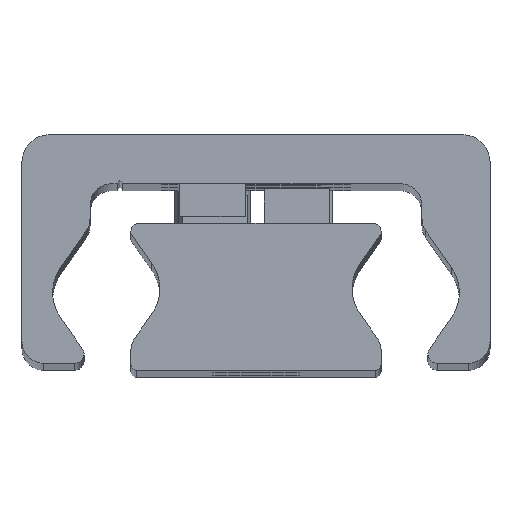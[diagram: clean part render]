
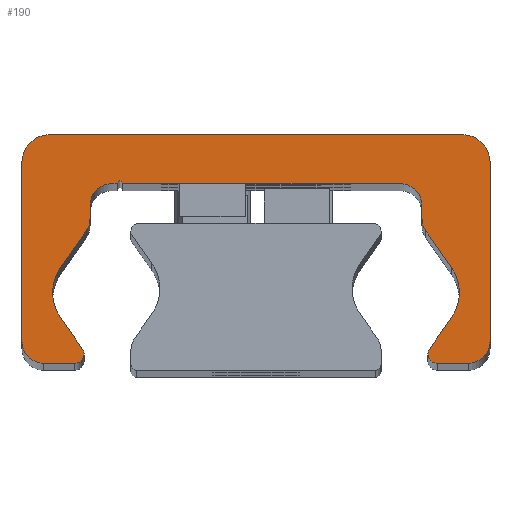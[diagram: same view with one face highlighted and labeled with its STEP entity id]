
A CAD part, top view. The second image highlights one B-rep face of the part: STEP entity #190.
In plain terms, the highlighted planar face has unit normal (0, 0, 1).
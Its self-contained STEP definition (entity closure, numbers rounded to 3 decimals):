
#190=ADVANCED_FACE('',(#468),#469,.T.);
#468=FACE_OUTER_BOUND('',#747,.T.);
#469=PLANE('',#748);
#747=EDGE_LOOP('',(#1714,#1715,#1716,#1717,#1718,#1719,#1720,#1721,#1722,#1723,#1724,#1725,#1726,#1727,#1728,#1729,#1730,#1731,#1732,#1733,#1734,#1735,#1736,#1737,#1738,#1739,#1740,#1741,#1742,#1743));
#748=AXIS2_PLACEMENT_3D('',#1744,#1745,#1746);
#1714=ORIENTED_EDGE('',*,*,#1949,.F.);
#1715=ORIENTED_EDGE('',*,*,#2102,.F.);
#1716=ORIENTED_EDGE('',*,*,#1935,.F.);
#1717=ORIENTED_EDGE('',*,*,#2101,.F.);
#1718=ORIENTED_EDGE('',*,*,#2097,.F.);
#1719=ORIENTED_EDGE('',*,*,#2094,.F.);
#1720=ORIENTED_EDGE('',*,*,#2091,.F.);
#1721=ORIENTED_EDGE('',*,*,#2088,.F.);
#1722=ORIENTED_EDGE('',*,*,#2085,.F.);
#1723=ORIENTED_EDGE('',*,*,#2082,.F.);
#1724=ORIENTED_EDGE('',*,*,#2079,.F.);
#1725=ORIENTED_EDGE('',*,*,#2076,.F.);
#1726=ORIENTED_EDGE('',*,*,#2073,.F.);
#1727=ORIENTED_EDGE('',*,*,#2070,.F.);
#1728=ORIENTED_EDGE('',*,*,#1941,.F.);
#1729=ORIENTED_EDGE('',*,*,#2068,.F.);
#1730=ORIENTED_EDGE('',*,*,#1943,.F.);
#1731=ORIENTED_EDGE('',*,*,#2067,.F.);
#1732=ORIENTED_EDGE('',*,*,#2063,.F.);
#1733=ORIENTED_EDGE('',*,*,#2060,.F.);
#1734=ORIENTED_EDGE('',*,*,#2057,.F.);
#1735=ORIENTED_EDGE('',*,*,#2054,.F.);
#1736=ORIENTED_EDGE('',*,*,#2051,.F.);
#1737=ORIENTED_EDGE('',*,*,#2048,.F.);
#1738=ORIENTED_EDGE('',*,*,#2045,.F.);
#1739=ORIENTED_EDGE('',*,*,#2042,.F.);
#1740=ORIENTED_EDGE('',*,*,#2039,.F.);
#1741=ORIENTED_EDGE('',*,*,#2036,.F.);
#1742=ORIENTED_EDGE('',*,*,#2033,.F.);
#1743=ORIENTED_EDGE('',*,*,#2030,.F.);
#1744=CARTESIAN_POINT('',(-0.023,14.187,162.0));
#1745=DIRECTION('',(0.0,0.0,1.0));
#1746=DIRECTION('',(1.0,0.0,0.0));
#1935=EDGE_CURVE('',#2354,#2357,#2358,.T.);
#1941=EDGE_CURVE('',#2367,#2363,#2369,.T.);
#1943=EDGE_CURVE('',#2370,#2373,#2374,.T.);
#1949=EDGE_CURVE('',#2383,#2379,#2385,.T.);
#2030=EDGE_CURVE('',#2379,#2516,#2517,.T.);
#2033=EDGE_CURVE('',#2516,#2521,#2522,.T.);
#2036=EDGE_CURVE('',#2521,#2526,#2527,.T.);
#2039=EDGE_CURVE('',#2526,#2531,#2532,.T.);
#2042=EDGE_CURVE('',#2531,#2536,#2537,.T.);
#2045=EDGE_CURVE('',#2536,#2541,#2542,.T.);
#2048=EDGE_CURVE('',#2541,#2546,#2547,.T.);
#2051=EDGE_CURVE('',#2546,#2551,#2552,.T.);
#2054=EDGE_CURVE('',#2551,#2556,#2557,.T.);
#2057=EDGE_CURVE('',#2556,#2561,#2562,.T.);
#2060=EDGE_CURVE('',#2561,#2566,#2567,.T.);
#2063=EDGE_CURVE('',#2566,#2571,#2572,.T.);
#2067=EDGE_CURVE('',#2571,#2370,#2577,.T.);
#2068=EDGE_CURVE('',#2373,#2367,#2578,.T.);
#2070=EDGE_CURVE('',#2363,#2580,#2581,.T.);
#2073=EDGE_CURVE('',#2580,#2585,#2586,.T.);
#2076=EDGE_CURVE('',#2585,#2590,#2591,.T.);
#2079=EDGE_CURVE('',#2590,#2595,#2596,.T.);
#2082=EDGE_CURVE('',#2595,#2600,#2601,.T.);
#2085=EDGE_CURVE('',#2600,#2605,#2606,.T.);
#2088=EDGE_CURVE('',#2605,#2610,#2611,.T.);
#2091=EDGE_CURVE('',#2610,#2615,#2616,.T.);
#2094=EDGE_CURVE('',#2615,#2620,#2621,.T.);
#2097=EDGE_CURVE('',#2620,#2625,#2626,.T.);
#2101=EDGE_CURVE('',#2625,#2354,#2631,.T.);
#2102=EDGE_CURVE('',#2357,#2383,#2632,.T.);
#2354=VERTEX_POINT('',#2974);
#2357=VERTEX_POINT('',#2978);
#2358=CIRCLE('',#2979,0.85);
#2363=VERTEX_POINT('',#2985);
#2367=VERTEX_POINT('',#2990);
#2369=CIRCLE('',#2993,0.85);
#2370=VERTEX_POINT('',#2994);
#2373=VERTEX_POINT('',#2998);
#2374=CIRCLE('',#2999,4.);
#2379=VERTEX_POINT('',#3005);
#2383=VERTEX_POINT('',#3010);
#2385=CIRCLE('',#3013,4.);
#2516=VERTEX_POINT('',#3190);
#2517=CIRCLE('',#3191,4.);
#2521=VERTEX_POINT('',#3196);
#2522=LINE('',#3197,#3198);
#2526=VERTEX_POINT('',#3204);
#2527=CIRCLE('',#3205,2.);
#2531=VERTEX_POINT('',#3210);
#2532=LINE('',#3211,#3212);
#2536=VERTEX_POINT('',#3218);
#2537=CIRCLE('',#3219,2.0);
#2541=VERTEX_POINT('',#3224);
#2542=LINE('',#3225,#3226);
#2546=VERTEX_POINT('',#3232);
#2547=CIRCLE('',#3233,0.25);
#2551=VERTEX_POINT('',#3238);
#2552=LINE('',#3239,#3240);
#2556=VERTEX_POINT('',#3246);
#2557=CIRCLE('',#3247,2.0);
#2561=VERTEX_POINT('',#3252);
#2562=LINE('',#3253,#3254);
#2566=VERTEX_POINT('',#3260);
#2567=CIRCLE('',#3261,2.0);
#2571=VERTEX_POINT('',#3266);
#2572=LINE('',#3267,#3268);
#2577=CIRCLE('',#3275,4.);
#2578=LINE('',#3276,#3277);
#2580=VERTEX_POINT('',#3280);
#2581=CIRCLE('',#3281,0.85);
#2585=VERTEX_POINT('',#3286);
#2586=LINE('',#3287,#3288);
#2590=VERTEX_POINT('',#3294);
#2591=CIRCLE('',#3295,2.);
#2595=VERTEX_POINT('',#3300);
#2596=LINE('',#3301,#3302);
#2600=VERTEX_POINT('',#3308);
#2601=CIRCLE('',#3309,2.5);
#2605=VERTEX_POINT('',#3314);
#2606=LINE('',#3315,#3316);
#2610=VERTEX_POINT('',#3322);
#2611=CIRCLE('',#3323,2.5);
#2615=VERTEX_POINT('',#3328);
#2616=LINE('',#3329,#3330);
#2620=VERTEX_POINT('',#3336);
#2621=CIRCLE('',#3337,2.);
#2625=VERTEX_POINT('',#3342);
#2626=LINE('',#3343,#3344);
#2631=CIRCLE('',#3351,0.85);
#2632=LINE('',#3352,#3353);
#2974=CARTESIAN_POINT('',(15.8,1.859,162.0));
#2978=CARTESIAN_POINT('',(15.922,2.298,162.0));
#2979=AXIS2_PLACEMENT_3D('',#3639,#3640,#3641);
#2985=CARTESIAN_POINT('',(-15.8,1.859,162.0));
#2990=CARTESIAN_POINT('',(-15.922,2.298,162.0));
#2993=AXIS2_PLACEMENT_3D('',#3651,#3652,#3653);
#2994=CARTESIAN_POINT('',(-18.688,7.509,162.0));
#2998=CARTESIAN_POINT('',(-17.964,5.214,162.0));
#2999=AXIS2_PLACEMENT_3D('',#3655,#3656,#3657);
#3005=CARTESIAN_POINT('',(18.688,7.509,162.0));
#3010=CARTESIAN_POINT('',(17.964,5.214,162.0));
#3013=AXIS2_PLACEMENT_3D('',#3667,#3668,#3669);
#3190=CARTESIAN_POINT('',(17.964,9.803,162.0));
#3191=AXIS2_PLACEMENT_3D('',#3818,#3819,#3820);
#3196=CARTESIAN_POINT('',(15.612,13.163,162.0));
#3197=CARTESIAN_POINT('',(15.612,13.163,162.0));
#3198=VECTOR('',#3825,1.0);
#3204=CARTESIAN_POINT('',(15.25,14.31,162.0));
#3205=AXIS2_PLACEMENT_3D('',#3828,#3829,#3830);
#3210=CARTESIAN_POINT('',(15.25,15.509,162.0));
#3211=CARTESIAN_POINT('',(15.25,15.509,162.0));
#3212=VECTOR('',#3835,1.0);
#3218=CARTESIAN_POINT('',(13.25,17.509,162.0));
#3219=AXIS2_PLACEMENT_3D('',#3838,#3839,#3840);
#3224=CARTESIAN_POINT('',(-12.25,17.509,162.0));
#3225=CARTESIAN_POINT('',(-12.25,17.509,162.0));
#3226=VECTOR('',#3845,1.0);
#3232=CARTESIAN_POINT('',(-12.75,17.509,162.0));
#3233=AXIS2_PLACEMENT_3D('',#3848,#3849,#3850);
#3238=CARTESIAN_POINT('',(-13.25,17.509,162.0));
#3239=CARTESIAN_POINT('',(-13.25,17.509,162.0));
#3240=VECTOR('',#3855,1.0);
#3246=CARTESIAN_POINT('',(-15.25,15.509,162.0));
#3247=AXIS2_PLACEMENT_3D('',#3858,#3859,#3860);
#3252=CARTESIAN_POINT('',(-15.25,14.31,162.0));
#3253=CARTESIAN_POINT('',(-15.25,14.31,162.0));
#3254=VECTOR('',#3865,1.0);
#3260=CARTESIAN_POINT('',(-15.612,13.163,162.0));
#3261=AXIS2_PLACEMENT_3D('',#3868,#3869,#3870);
#3266=CARTESIAN_POINT('',(-17.964,9.803,162.0));
#3267=CARTESIAN_POINT('',(-17.964,9.803,162.0));
#3268=VECTOR('',#3875,1.);
#3275=AXIS2_PLACEMENT_3D('',#3881,#3882,#3883);
#3276=CARTESIAN_POINT('',(-15.922,2.298,162.0));
#3277=VECTOR('',#3884,1.0);
#3280=CARTESIAN_POINT('',(-16.65,1.009,162.0));
#3281=AXIS2_PLACEMENT_3D('',#3886,#3887,#3888);
#3286=CARTESIAN_POINT('',(-19.5,1.009,162.0));
#3287=CARTESIAN_POINT('',(-19.5,1.009,162.0));
#3288=VECTOR('',#3893,1.0);
#3294=CARTESIAN_POINT('',(-21.5,3.009,162.0));
#3295=AXIS2_PLACEMENT_3D('',#3896,#3897,#3898);
#3300=CARTESIAN_POINT('',(-21.5,19.509,162.0));
#3301=CARTESIAN_POINT('',(-21.5,19.509,162.0));
#3302=VECTOR('',#3903,1.0);
#3308=CARTESIAN_POINT('',(-19.0,22.009,162.0));
#3309=AXIS2_PLACEMENT_3D('',#3906,#3907,#3908);
#3314=CARTESIAN_POINT('',(19.0,22.009,162.0));
#3315=CARTESIAN_POINT('',(19.0,22.009,162.0));
#3316=VECTOR('',#3913,1.0);
#3322=CARTESIAN_POINT('',(21.5,19.509,162.0));
#3323=AXIS2_PLACEMENT_3D('',#3916,#3917,#3918);
#3328=CARTESIAN_POINT('',(21.5,3.009,162.0));
#3329=CARTESIAN_POINT('',(21.5,3.009,162.0));
#3330=VECTOR('',#3923,1.0);
#3336=CARTESIAN_POINT('',(19.5,1.009,162.0));
#3337=AXIS2_PLACEMENT_3D('',#3926,#3927,#3928);
#3342=CARTESIAN_POINT('',(16.65,1.009,162.0));
#3343=CARTESIAN_POINT('',(16.65,1.009,162.0));
#3344=VECTOR('',#3933,1.0);
#3351=AXIS2_PLACEMENT_3D('',#3939,#3940,#3941);
#3352=CARTESIAN_POINT('',(17.964,5.214,162.0));
#3353=VECTOR('',#3942,1.0);
#3639=CARTESIAN_POINT('',(16.65,1.859,162.0));
#3640=DIRECTION('',(0.0,0.0,-1.0));
#3641=DIRECTION('',(1.0,0.0,0.0));
#3651=CARTESIAN_POINT('',(-16.65,1.859,162.0));
#3652=DIRECTION('',(0.0,0.0,-1.0));
#3653=DIRECTION('',(1.0,0.0,0.0));
#3655=CARTESIAN_POINT('',(-14.688,7.509,162.0));
#3656=DIRECTION('',(0.0,0.0,1.0));
#3657=DIRECTION('',(1.0,0.0,0.0));
#3667=CARTESIAN_POINT('',(14.688,7.509,162.0));
#3668=DIRECTION('',(0.0,0.0,1.0));
#3669=DIRECTION('',(1.0,0.0,0.0));
#3818=CARTESIAN_POINT('',(14.688,7.509,162.0));
#3819=DIRECTION('',(0.0,0.0,1.0));
#3820=DIRECTION('',(1.0,0.0,0.0));
#3825=DIRECTION('',(-0.574,0.819,0.0));
#3828=CARTESIAN_POINT('',(17.25,14.31,162.0));
#3829=DIRECTION('',(0.0,0.0,-1.0));
#3830=DIRECTION('',(1.0,0.0,0.0));
#3835=DIRECTION('',(0.0,1.0,0.0));
#3838=CARTESIAN_POINT('',(13.25,15.509,162.0));
#3839=DIRECTION('',(0.0,0.0,1.0));
#3840=DIRECTION('',(1.0,0.0,0.0));
#3845=DIRECTION('',(-1.0,-0.0,-0.0));
#3848=CARTESIAN_POINT('',(-12.5,17.509,162.0));
#3849=DIRECTION('',(0.0,0.0,1.0));
#3850=DIRECTION('',(1.0,0.0,0.0));
#3855=DIRECTION('',(-1.0,-0.0,-0.0));
#3858=CARTESIAN_POINT('',(-13.25,15.509,162.0));
#3859=DIRECTION('',(0.0,0.0,1.0));
#3860=DIRECTION('',(1.0,0.0,0.0));
#3865=DIRECTION('',(-0.0,-1.0,-0.0));
#3868=CARTESIAN_POINT('',(-17.25,14.31,162.0));
#3869=DIRECTION('',(0.0,0.0,-1.0));
#3870=DIRECTION('',(1.0,0.0,0.0));
#3875=DIRECTION('',(-0.574,-0.819,-0.0));
#3881=CARTESIAN_POINT('',(-14.688,7.509,162.0));
#3882=DIRECTION('',(0.0,0.0,1.0));
#3883=DIRECTION('',(1.0,0.0,0.0));
#3884=DIRECTION('',(0.574,-0.819,0.0));
#3886=CARTESIAN_POINT('',(-16.65,1.859,162.0));
#3887=DIRECTION('',(0.0,0.0,-1.0));
#3888=DIRECTION('',(1.0,0.0,0.0));
#3893=DIRECTION('',(-1.0,-0.0,-0.0));
#3896=CARTESIAN_POINT('',(-19.5,3.009,162.0));
#3897=DIRECTION('',(0.0,0.0,-1.0));
#3898=DIRECTION('',(1.0,0.0,0.0));
#3903=DIRECTION('',(0.0,1.0,0.0));
#3906=CARTESIAN_POINT('',(-19.0,19.509,162.0));
#3907=DIRECTION('',(0.0,0.0,-1.0));
#3908=DIRECTION('',(1.0,0.0,0.0));
#3913=DIRECTION('',(1.0,0.0,0.0));
#3916=CARTESIAN_POINT('',(19.0,19.509,162.0));
#3917=DIRECTION('',(0.0,0.0,-1.0));
#3918=DIRECTION('',(1.0,0.0,0.0));
#3923=DIRECTION('',(-0.0,-1.0,-0.0));
#3926=CARTESIAN_POINT('',(19.5,3.009,162.0));
#3927=DIRECTION('',(0.0,0.0,-1.0));
#3928=DIRECTION('',(1.0,0.0,0.0));
#3933=DIRECTION('',(-1.0,-0.0,-0.0));
#3939=CARTESIAN_POINT('',(16.65,1.859,162.0));
#3940=DIRECTION('',(0.0,0.0,-1.0));
#3941=DIRECTION('',(1.0,0.0,0.0));
#3942=DIRECTION('',(0.574,0.819,0.0));
